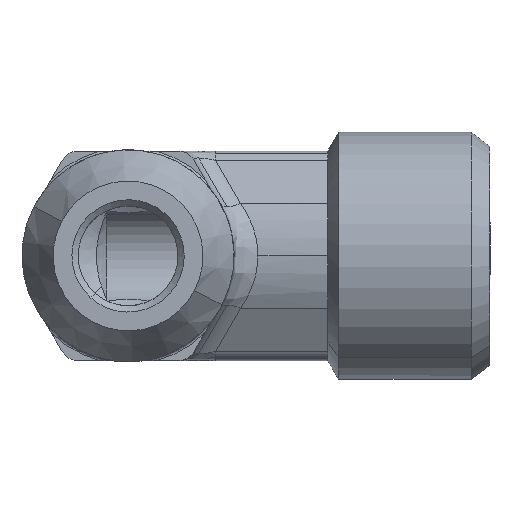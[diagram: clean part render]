
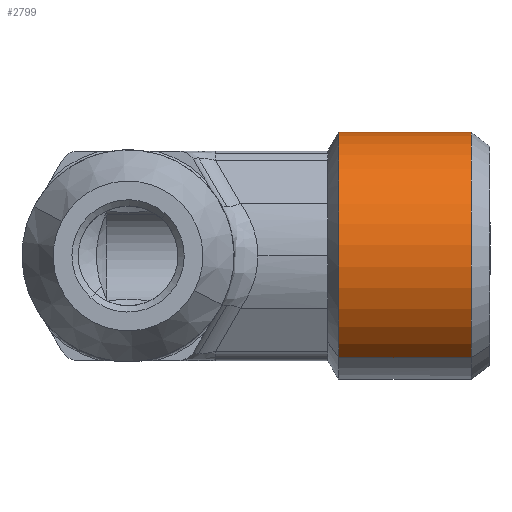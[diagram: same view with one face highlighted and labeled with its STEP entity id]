
A CAD part, front view. The second image highlights one B-rep face of the part: STEP entity #2799.
In plain terms, the highlighted cylindrical face has radius 9.925 mm (diameter 19.85 mm), a partial arc.
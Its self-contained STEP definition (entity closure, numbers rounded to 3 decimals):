
#727=CARTESIAN_POINT('',(-10.169,-8.147,16.88));
#728=VERTEX_POINT('',#727);
#770=CARTESIAN_POINT('',(1.169,8.147,16.88));
#771=VERTEX_POINT('',#770);
#778=CARTESIAN_POINT('',(-4.5,0.,16.88));
#779=DIRECTION('',(0.0,0.0,-1.0));
#780=DIRECTION('',(1.0,0.0,0.0));
#781=AXIS2_PLACEMENT_3D('',#778,#779,#780);
#782=CIRCLE('',#781,9.925);
#783=EDGE_CURVE('',#771,#728,#782,.T.);
#795=CARTESIAN_POINT('',(-10.169,-8.147,27.507));
#796=VERTEX_POINT('',#795);
#812=CARTESIAN_POINT('',(1.169,8.147,27.507));
#813=VERTEX_POINT('',#812);
#835=CARTESIAN_POINT('',(1.169,8.147,16.88));
#836=DIRECTION('',(0.0,0.0,1.0));
#837=VECTOR('',#836,10.627);
#838=LINE('',#835,#837);
#839=EDGE_CURVE('',#771,#813,#838,.T.);
#857=CARTESIAN_POINT('',(-10.169,-8.147,27.507));
#858=DIRECTION('',(0.0,0.0,-1.0));
#859=VECTOR('',#858,10.627);
#860=LINE('',#857,#859);
#861=EDGE_CURVE('',#796,#728,#860,.T.);
#2782=CARTESIAN_POINT('',(-4.5,0.,30.5));
#2783=DIRECTION('',(0.,0.,-1.0));
#2784=DIRECTION('',(0.571,0.821,0.));
#2785=AXIS2_PLACEMENT_3D('',#2782,#2783,#2784);
#2786=CYLINDRICAL_SURFACE('',#2785,9.925);
#2787=ORIENTED_EDGE('',*,*,#839,.T.);
#2788=CARTESIAN_POINT('',(-4.5,0.,27.507));
#2789=DIRECTION('',(0.,0.,1.0));
#2790=DIRECTION('',(0.571,0.821,0.));
#2791=AXIS2_PLACEMENT_3D('',#2788,#2789,#2790);
#2792=CIRCLE('',#2791,9.925);
#2793=EDGE_CURVE('',#796,#813,#2792,.T.);
#2794=ORIENTED_EDGE('',*,*,#2793,.F.);
#2795=ORIENTED_EDGE('',*,*,#861,.T.);
#2796=ORIENTED_EDGE('',*,*,#783,.F.);
#2797=EDGE_LOOP('',(#2787,#2794,#2795,#2796));
#2798=FACE_OUTER_BOUND('',#2797,.T.);
#2799=ADVANCED_FACE('',(#2798),#2786,.T.);
